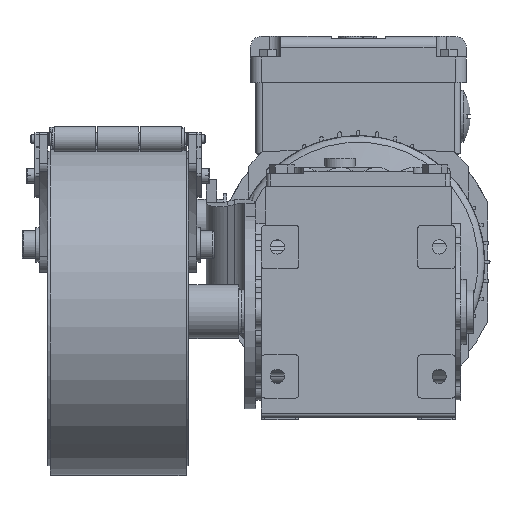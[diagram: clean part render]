
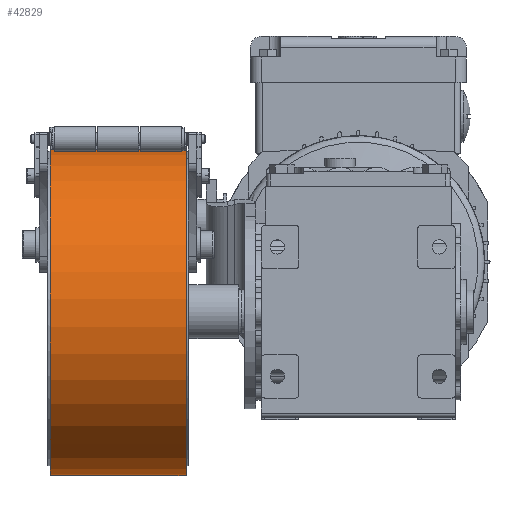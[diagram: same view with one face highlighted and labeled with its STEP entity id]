
A CAD part, left-side view. The second image highlights one B-rep face of the part: STEP entity #42829.
In plain terms, the highlighted cylindrical face has radius 76 mm (diameter 152 mm), a partial arc.
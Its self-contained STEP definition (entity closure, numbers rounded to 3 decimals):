
#3051=FACE_OUTER_BOUND('',#5467,.T.);
#5467=EDGE_LOOP('',(#32950,#32951,#32952,#32953));
#8436=LINE('',#68831,#12058);
#8439=LINE('',#68837,#12061);
#12058=VECTOR('',#55764,10.);
#12061=VECTOR('',#55769,10.);
#15174=CIRCLE('',#46560,76.);
#15175=CIRCLE('',#46561,76.);
#18329=VERTEX_POINT('',#68829);
#18330=VERTEX_POINT('',#68830);
#18331=VERTEX_POINT('',#68835);
#18332=VERTEX_POINT('',#68836);
#23494=EDGE_CURVE('',#18329,#18330,#8436,.T.);
#23497=EDGE_CURVE('',#18331,#18332,#8439,.T.);
#23498=EDGE_CURVE('',#18332,#18330,#15174,.T.);
#23499=EDGE_CURVE('',#18331,#18329,#15175,.T.);
#32950=ORIENTED_EDGE('',*,*,#23497,.T.);
#32951=ORIENTED_EDGE('',*,*,#23498,.T.);
#32952=ORIENTED_EDGE('',*,*,#23494,.F.);
#32953=ORIENTED_EDGE('',*,*,#23499,.F.);
#38854=CYLINDRICAL_SURFACE('',#46559,76.);
#42829=ADVANCED_FACE('',(#3051),#38854,.T.);
#46559=AXIS2_PLACEMENT_3D('',#68834,#55767,#55768);
#46560=AXIS2_PLACEMENT_3D('',#68838,#55770,#55771);
#46561=AXIS2_PLACEMENT_3D('',#68839,#55772,#55773);
#55764=DIRECTION('',(0.,1.,0.));
#55767=DIRECTION('center_axis',(0.,-1.,0.));
#55768=DIRECTION('ref_axis',(-0.966,0.,-0.259));
#55769=DIRECTION('',(0.,1.,0.));
#55770=DIRECTION('center_axis',(0.,-1.,0.));
#55771=DIRECTION('ref_axis',(-0.139,0.,0.99));
#55772=DIRECTION('center_axis',(0.,-1.,0.));
#55773=DIRECTION('ref_axis',(-0.139,0.,0.99));
#68829=CARTESIAN_POINT('',(124.92,74.221,-99.261));
#68830=CARTESIAN_POINT('',(124.92,137.221,-99.261));
#68831=CARTESIAN_POINT('',(124.92,137.221,-99.261));
#68834=CARTESIAN_POINT('Origin',(96.45,105.721,-28.795));
#68835=CARTESIAN_POINT('',(85.873,74.221,46.466));
#68836=CARTESIAN_POINT('',(85.873,137.221,46.466));
#68837=CARTESIAN_POINT('',(85.873,137.221,46.466));
#68838=CARTESIAN_POINT('Origin',(96.45,137.221,-28.795));
#68839=CARTESIAN_POINT('Origin',(96.45,74.221,-28.795));
